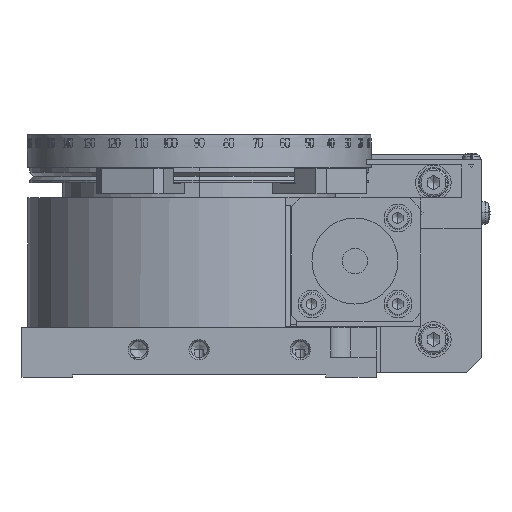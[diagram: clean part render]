
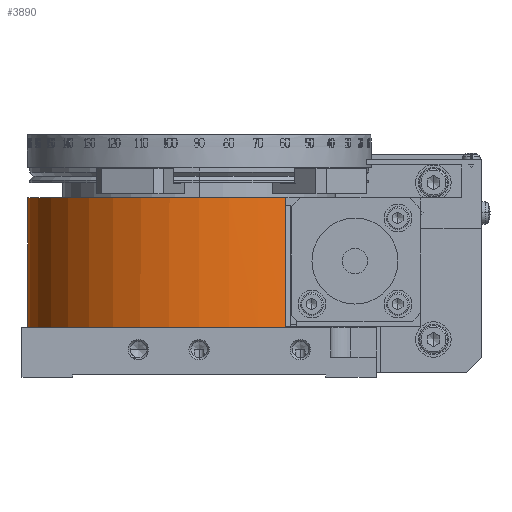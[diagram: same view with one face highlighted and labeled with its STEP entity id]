
A CAD part, left-side view. The second image highlights one B-rep face of the part: STEP entity #3890.
In plain terms, the highlighted cylindrical face has radius 33.9 mm (diameter 67.8 mm), a partial arc.
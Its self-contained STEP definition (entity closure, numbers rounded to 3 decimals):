
#3890=ADVANCED_FACE('',(#42984),#42983,.T.);
#42983=CYLINDRICAL_SURFACE('',#72150,33.9);
#42984=FACE_OUTER_BOUND('',#72151,.T.);
#72147=CARTESIAN_POINT('',(0.,0.,4.164));
#72148=DIRECTION('',(0.,0.,-1.));
#72149=DIRECTION('',(0.,-1.,0.));
#72150=AXIS2_PLACEMENT_3D('',#72147,#72148,#72149);
#72151=EDGE_LOOP('',(#100826,#100827,#100828,#100829,#100830,#100831,#100832,#100833,#100834));
#100826=ORIENTED_EDGE('',*,*,#112636,.T.);
#100827=ORIENTED_EDGE('',*,*,#116151,.F.);
#100828=ORIENTED_EDGE('',*,*,#111351,.T.);
#100829=ORIENTED_EDGE('',*,*,#111327,.T.);
#100830=ORIENTED_EDGE('',*,*,#116118,.T.);
#100831=ORIENTED_EDGE('',*,*,#111323,.T.);
#100832=ORIENTED_EDGE('',*,*,#111349,.F.);
#100833=ORIENTED_EDGE('',*,*,#111347,.F.);
#100834=ORIENTED_EDGE('',*,*,#116152,.T.);
#111323=EDGE_CURVE('',#161430,#161423,#161431,.T.);
#111327=EDGE_CURVE('',#161458,#161451,#161459,.T.);
#111347=EDGE_CURVE('',#161591,#161569,#161598,.T.);
#111349=EDGE_CURVE('',#161569,#161423,#161610,.T.);
#111351=EDGE_CURVE('',#161622,#161458,#161623,.T.);
#112636=EDGE_CURVE('',#170331,#170332,#170333,.T.);
#116118=EDGE_CURVE('',#161451,#161430,#193470,.T.);
#116151=EDGE_CURVE('',#161622,#170332,#193681,.T.);
#116152=EDGE_CURVE('',#161591,#170331,#193687,.T.);
#161423=VERTEX_POINT('',#225912);
#161430=VERTEX_POINT('',#225916);
#161431=CIRCLE('',#225920,33.9);
#161451=VERTEX_POINT('',#225929);
#161458=VERTEX_POINT('',#225933);
#161459=CIRCLE('',#225937,33.9);
#161569=VERTEX_POINT('',#226044);
#161591=VERTEX_POINT('',#226058);
#161598=CIRCLE('',#226066,33.9);
#161610=LINE('',#226070,#226071);
#161622=VERTEX_POINT('',#226076);
#161623=CIRCLE('',#226080,33.9);
#170331=VERTEX_POINT('',#231430);
#170332=VERTEX_POINT('',#231431);
#170333=CIRCLE('',#231435,33.9);
#193470=CIRCLE('',#245884,33.9);
#193681=(BOUNDED_CURVE() B_SPLINE_CURVE(1,(#246048,#246049),.UNSPECIFIED.,.F.,.F.) B_SPLINE_CURVE_WITH_KNOTS((2,2),(0.913,0.917),.UNSPECIFIED.) CURVE() GEOMETRIC_REPRESENTATION_ITEM() RATIONAL_B_SPLINE_CURVE((1.,1.)) REPRESENTATION_ITEM('') );
#193687=(BOUNDED_CURVE() B_SPLINE_CURVE(1,(#246050,#246051),.UNSPECIFIED.,.F.,.F.) B_SPLINE_CURVE_WITH_KNOTS((2,2),(0.083,0.917),.UNSPECIFIED.) CURVE() GEOMETRIC_REPRESENTATION_ITEM() RATIONAL_B_SPLINE_CURVE((0.75,0.75)) REPRESENTATION_ITEM('') );
#225912=CARTESIAN_POINT('',(-29.329,-17.,10.));
#225916=CARTESIAN_POINT('',(-18.,-28.726,10.));
#225917=CARTESIAN_POINT('',(0.,0.,10.));
#225918=DIRECTION('',(0.,0.,-1.));
#225919=DIRECTION('',(0.,-1.,0.));
#225920=AXIS2_PLACEMENT_3D('',#225917,#225918,#225919);
#225929=CARTESIAN_POINT('',(-8.5,-32.817,10.));
#225933=CARTESIAN_POINT('',(-7.5,-33.06,10.));
#225934=CARTESIAN_POINT('',(0.,0.,10.));
#225935=DIRECTION('',(0.,0.,-1.));
#225936=DIRECTION('',(0.,-1.,0.));
#225937=AXIS2_PLACEMENT_3D('',#225934,#225935,#225936);
#226044=CARTESIAN_POINT('',(-29.329,-17.,35.5));
#226058=CARTESIAN_POINT('',(0.,33.9,35.5));
#226063=CARTESIAN_POINT('',(0.,0.,35.5));
#226064=DIRECTION('',(0.,0.,1.));
#226065=DIRECTION('',(0.,-1.,0.));
#226066=AXIS2_PLACEMENT_3D('',#226063,#226064,#226065);
#226070=CARTESIAN_POINT('',(-29.329,-17.,35.5));
#226071=VECTOR('',#226072,25.5);
#226072=DIRECTION('',(0.,0.,-1.));
#226076=CARTESIAN_POINT('',(0.,-33.9,10.));
#226077=CARTESIAN_POINT('',(0.,0.,10.));
#226078=DIRECTION('',(0.,0.,-1.));
#226079=DIRECTION('',(0.221,-0.975,0.));
#226080=AXIS2_PLACEMENT_3D('',#226077,#226078,#226079);
#231430=CARTESIAN_POINT('',(0.,33.9,9.9));
#231431=CARTESIAN_POINT('',(0.,-33.9,9.9));
#231432=CARTESIAN_POINT('',(0.,0.,9.9));
#231433=DIRECTION('',(0.,0.,1.));
#231434=DIRECTION('',(0.,-1.,0.));
#231435=AXIS2_PLACEMENT_3D('',#231432,#231433,#231434);
#245881=CARTESIAN_POINT('',(0.,0.,10.));
#245882=DIRECTION('',(0.,0.,-1.));
#245883=DIRECTION('',(0.,-1.,0.));
#245884=AXIS2_PLACEMENT_3D('',#245881,#245882,#245883);
#246048=CARTESIAN_POINT('',(0.,-33.9,10.));
#246049=CARTESIAN_POINT('',(0.,-33.9,9.9));
#246050=CARTESIAN_POINT('',(0.,33.9,35.5));
#246051=CARTESIAN_POINT('',(0.,33.9,9.9));
